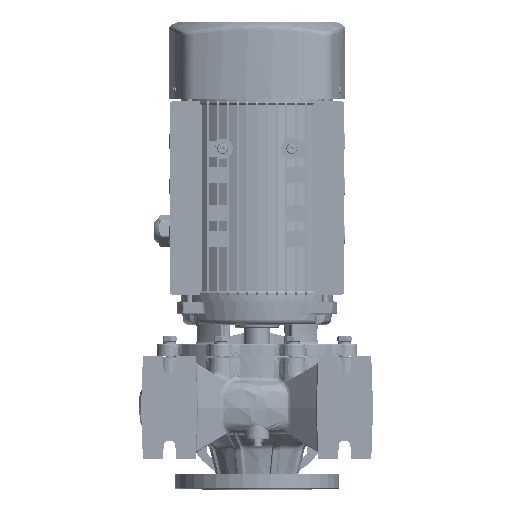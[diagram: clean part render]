
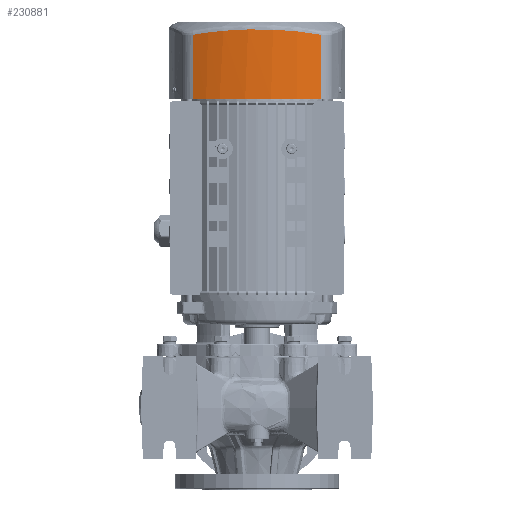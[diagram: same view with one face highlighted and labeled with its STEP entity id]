
A CAD part, front view. The second image highlights one B-rep face of the part: STEP entity #230881.
In plain terms, the highlighted cylindrical face has radius 199 mm (diameter 398 mm), a partial arc.
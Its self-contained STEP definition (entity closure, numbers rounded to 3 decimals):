
#13308 = EDGE_LOOP ( 'NONE', ( #67951, #196768, #40262, #235382 ) ) ;
#19394 = CARTESIAN_POINT ( 'NONE',  ( 77.792, -91.559, 401.744 ) ) ;
#27355 = VERTEX_POINT ( 'NONE', #135551 ) ;
#27896 = CARTESIAN_POINT ( 'NONE',  ( -77.792, -91.559, 375.9 ) ) ;
#28463 = CARTESIAN_POINT ( 'NONE',  ( -65.544, -96.761, 455.617 ) ) ;
#34591 = CARTESIAN_POINT ( 'NONE',  ( 77.792, -91.559, 427.588 ) ) ;
#38139 = CARTESIAN_POINT ( 'NONE',  ( 6.665, -107.394, 375.9 ) ) ;
#39952 = CARTESIAN_POINT ( 'NONE',  ( 16.705, -106.72, 459.707 ) ) ;
#40262 = ORIENTED_EDGE ( 'NONE', *, *, #72468, .T. ) ;
#41199 = CARTESIAN_POINT ( 'NONE',  ( 33.237, -104.712, 458.887 ) ) ;
#46504 = B_SPLINE_CURVE_WITH_KNOTS ( 'NONE', 3,
 ( #147175, #110652, #208852, #224061 ),
 .UNSPECIFIED., .F., .F.,
 ( 4, 4 ),
 ( 0., 1. ),
 .UNSPECIFIED. ) ;
#49856 = CARTESIAN_POINT ( 'NONE',  ( 0.894, -107.394, 459.981 ) ) ;
#57799 = EDGE_CURVE ( 'NONE', #211214, #207603, #101698, .T. ) ;
#65675 = CARTESIAN_POINT ( 'NONE',  ( -52.675, -100.412, 375.9 ) ) ;
#67951 = ORIENTED_EDGE ( 'NONE', *, *, #156783, .F. ) ;
#69985 = CARTESIAN_POINT ( 'NONE',  ( -13.295, -107.398, 459.983 ) ) ;
#72468 = EDGE_CURVE ( 'NONE', #229280, #211214, #125944, .T. ) ;
#77762 = CARTESIAN_POINT ( 'NONE',  ( 26.646, -105.714, 459.297 ) ) ;
#88908 = CARTESIAN_POINT ( 'NONE',  ( 1.727, -107.388, 459.979 ) ) ;
#94853 = CARTESIAN_POINT ( 'NONE',  ( 77.792, -91.559, 375.9 ) ) ;
#101698 = B_SPLINE_CURVE_WITH_KNOTS ( 'NONE', 3,
 ( #178439, #236452, #217518, #41199, #77762, #39952, #105343, #125478, #222498, #199842, #88908, #49856, #69985, #124228, #184634, #28463, #141873 ),
 .UNSPECIFIED., .F., .F.,
 ( 4, 2, 2, 2, 1, 2, 2, 2, 4 ),
 ( 0., 0.25, 0.375, 0.438, 0.469, 0.484, 0.5, 0.75, 1. ),
 .UNSPECIFIED. ) ;
#105343 = CARTESIAN_POINT ( 'NONE',  ( 13.382, -106.972, 459.809 ) ) ;
#110652 = CARTESIAN_POINT ( 'NONE',  ( -77.792, -91.559, 401.744 ) ) ;
#113772 = CARTESIAN_POINT ( 'NONE',  ( 46.224, -102.066, 375.9 ) ) ;
#124228 = CARTESIAN_POINT ( 'NONE',  ( -26.637, -106.053, 459.438 ) ) ;
#125478 = CARTESIAN_POINT ( 'NONE',  ( 8.39, -107.224, 459.912 ) ) ;
#125944 = B_SPLINE_CURVE_WITH_KNOTS ( 'NONE', 3,
 ( #188278, #19394, #34591, #247555 ),
 .UNSPECIFIED., .F., .F.,
 ( 4, 4 ),
 ( 0., 1. ),
 .UNSPECIFIED. ) ;
#132658 = CARTESIAN_POINT ( 'NONE',  ( 65.405, -96.457, 375.9 ) ) ;
#135551 = CARTESIAN_POINT ( 'NONE',  ( -77.792, -91.559, 375.9 ) ) ;
#135786 = FACE_OUTER_BOUND ( 'NONE', #13308, .T. ) ;
#137610 = CARTESIAN_POINT ( 'NONE',  ( -13.316, -107.06, 375.9 ) ) ;
#138841 = CARTESIAN_POINT ( 'NONE',  ( -71.656, -94.165, 375.9 ) ) ;
#141340 = EDGE_CURVE ( 'NONE', #229280, #27355, #207317, .T. ) ;
#141873 = CARTESIAN_POINT ( 'NONE',  ( -77.792, -91.559, 453.432 ) ) ;
#143123 = CARTESIAN_POINT ( 'NONE',  ( 77.792, -91.559, 375.9 ) ) ;
#147175 = CARTESIAN_POINT ( 'NONE',  ( -77.792, -91.559, 375.9 ) ) ;
#150996 = CYLINDRICAL_SURFACE ( 'NONE', #187413, 199. ) ;
#156783 = EDGE_CURVE ( 'NONE', #27355, #207603, #46504, .T. ) ;
#158030 = CARTESIAN_POINT ( 'NONE',  ( -77.792, -91.559, 453.432 ) ) ;
#162678 = CARTESIAN_POINT ( 'NONE',  ( -33.163, -104.724, 375.9 ) ) ;
#171703 = CARTESIAN_POINT ( 'NONE',  ( 26.578, -105.724, 375.9 ) ) ;
#177865 = CARTESIAN_POINT ( 'NONE',  ( -46.224, -102.066, 375.9 ) ) ;
#178439 = CARTESIAN_POINT ( 'NONE',  ( 77.792, -91.559, 453.432 ) ) ;
#179098 = CARTESIAN_POINT ( 'NONE',  ( -65.405, -96.457, 375.9 ) ) ;
#184634 = CARTESIAN_POINT ( 'NONE',  ( -52.762, -100.735, 457.255 ) ) ;
#186589 = CARTESIAN_POINT ( 'NONE',  ( 77.792, -91.559, 453.432 ) ) ;
#187413 = AXIS2_PLACEMENT_3D ( 'NONE', #227865, #248041, #210152 ) ;
#188278 = CARTESIAN_POINT ( 'NONE',  ( 77.792, -91.559, 375.9 ) ) ;
#190595 = CARTESIAN_POINT ( 'NONE',  ( 33.163, -104.725, 375.9 ) ) ;
#196768 = ORIENTED_EDGE ( 'NONE', *, *, #141340, .F. ) ;
#198055 = CARTESIAN_POINT ( 'NONE',  ( -6.665, -107.394, 375.9 ) ) ;
#199842 = CARTESIAN_POINT ( 'NONE',  ( 3.393, -107.367, 459.97 ) ) ;
#207317 = B_SPLINE_CURVE_WITH_KNOTS ( 'NONE', 3,
 ( #94853, #210717, #132658, #208260, #113772, #190595, #171703, #229667, #38139, #198055, #137610, #235874, #162678, #177865, #65675, #179098, #138841, #27896 ),
 .UNSPECIFIED., .F., .F.,
 ( 4, 2, 2, 2, 2, 2, 2, 2, 4 ),
 ( 0., 0.125, 0.25, 0.375, 0.5, 0.625, 0.75, 0.875, 1. ),
 .UNSPECIFIED. ) ;
#207603 = VERTEX_POINT ( 'NONE', #158030 ) ;
#208260 = CARTESIAN_POINT ( 'NONE',  ( 52.675, -100.412, 375.9 ) ) ;
#208852 = CARTESIAN_POINT ( 'NONE',  ( -77.792, -91.559, 427.588 ) ) ;
#210152 = DIRECTION ( 'NONE',  ( -1., 0., 0. ) ) ;
#210717 = CARTESIAN_POINT ( 'NONE',  ( 71.657, -94.165, 375.9 ) ) ;
#211214 = VERTEX_POINT ( 'NONE', #186589 ) ;
#217518 = CARTESIAN_POINT ( 'NONE',  ( 52.8, -100.723, 457.25 ) ) ;
#222498 = CARTESIAN_POINT ( 'NONE',  ( 5.892, -107.319, 459.951 ) ) ;
#224061 = CARTESIAN_POINT ( 'NONE',  ( -77.792, -91.559, 453.432 ) ) ;
#227865 = CARTESIAN_POINT ( 'NONE',  ( 0., 91.606, 375.9 ) ) ;
#229280 = VERTEX_POINT ( 'NONE', #143123 ) ;
#229667 = CARTESIAN_POINT ( 'NONE',  ( 13.316, -107.06, 375.9 ) ) ;
#230881 = ADVANCED_FACE ( 'NONE', ( #135786 ), #150996, .T. ) ;
#235382 = ORIENTED_EDGE ( 'NONE', *, *, #57799, .T. ) ;
#235874 = CARTESIAN_POINT ( 'NONE',  ( -26.578, -105.724, 375.9 ) ) ;
#236452 = CARTESIAN_POINT ( 'NONE',  ( 65.562, -96.753, 455.614 ) ) ;
#247555 = CARTESIAN_POINT ( 'NONE',  ( 77.792, -91.559, 453.432 ) ) ;
#248041 = DIRECTION ( 'NONE',  ( 0., 0., 1. ) ) ;
